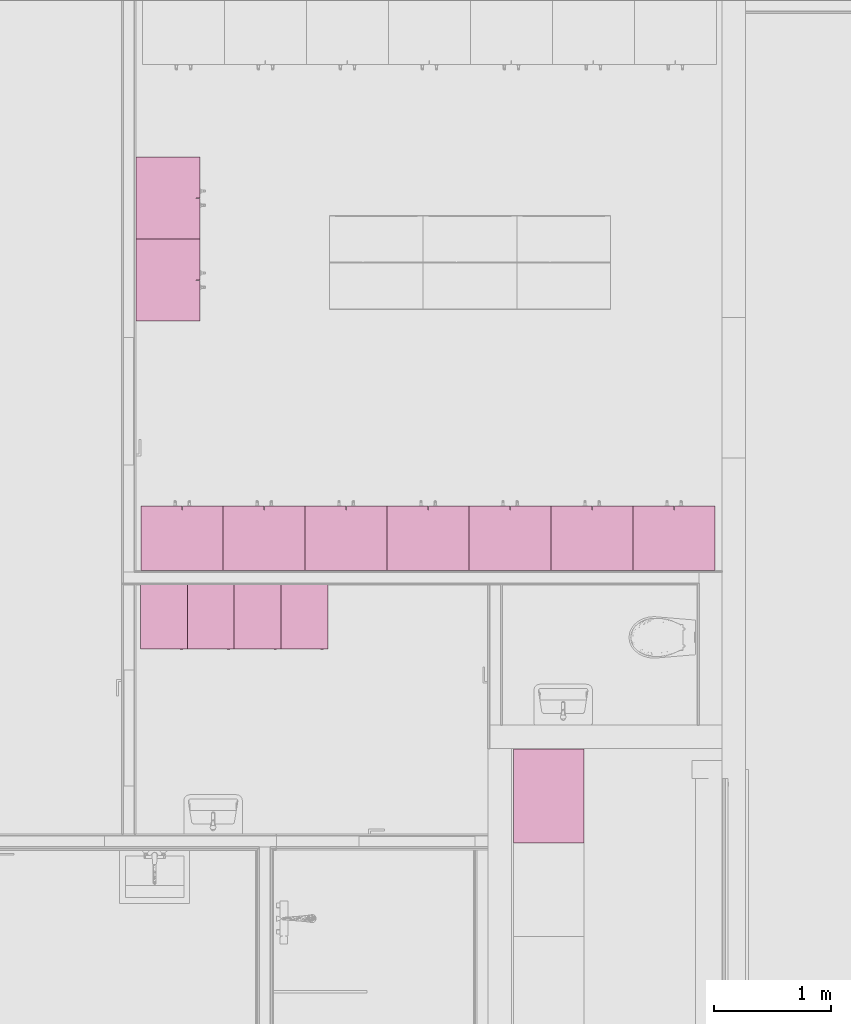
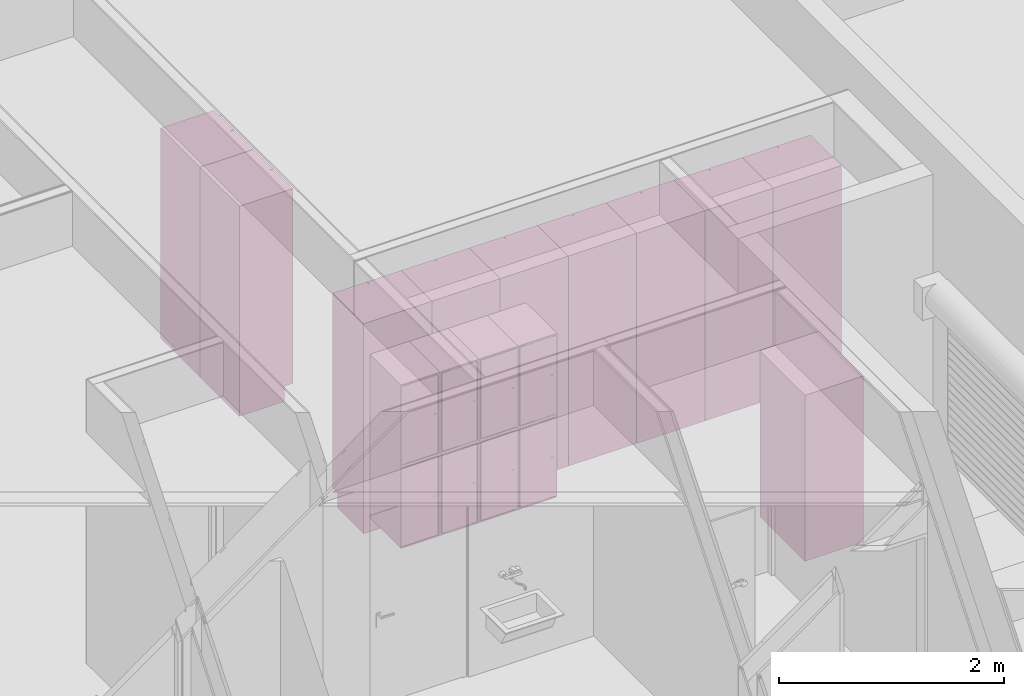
# One storey, part 33 of 67: 14 furniture elements.
"""IFC4 building model written with IfcOpenShell, lengths in millimetres."""

from ifc_helpers import new_model, entity, si_unit, converted_unit, direction, frame, origin, place, context, subcontext, project, spatial, indexed_curve, outline, extrude, polygons, source, transform, mapped, material, constituent, constituent_set, type_object, type_shapes, element, save


model = new_model("IFC4")

# Units and contexts
model_context = context("Model", 3, precision=0.01, world=origin(), true_north=direction((0.0, 1.0)))
body_context = subcontext(model_context, "Body", "Model", "MODEL_VIEW")
ifc_project = project(units=[si_unit("LENGTHUNIT", "METRE", prefix="MILLI"), si_unit("AREAUNIT", "SQUARE_METRE"), si_unit("VOLUMEUNIT", "CUBIC_METRE"), converted_unit("PLANEANGLEUNIT", "DEGREE", entity("IfcPlaneAngleMeasure", 0.017453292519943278), si_unit("PLANEANGLEUNIT", "RADIAN"), dimensions=[0, 0, 0, 0, 0, 0, 0])], contexts=[model_context])

# Site, building, storey, space
site_placement = place(None, origin())
site = spatial("IfcSite", under=ifc_project, at=site_placement, Name="Tomtens navn", CompositionType="ELEMENT")
building_placement = place(site_placement, origin())
building = spatial("IfcBuilding", under=site, at=building_placement, Name="Byggets navn", CompositionType="ELEMENT")
storey_placement = place(building_placement, origin())
storey = spatial("IfcBuildingStorey", under=building, at=storey_placement, Name="Level 01", CompositionType="ELEMENT", Elevation=2.1993652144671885e-25)
space_1_placement = place(storey_placement, origin())
space_1 = spatial("IfcSpace", under=storey, at=space_1_placement, Name="104", CompositionType="ELEMENT", PredefinedType="NOTDEFINED")

# Furniture
ifc_material_1 = material(Name="Paint - Grey", Category="Paint")
ifc_constituent_1 = constituent(ifc_material_1, Name="Paint - Grey", Category="Paint", fraction=0.9248749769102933)
ifc_material_2 = material(Name="Paint - White", Category="Paint")
ifc_constituent_2 = constituent(ifc_material_2, Name="Paint - White", Category="Paint", fraction=0.07512502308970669)
ifc_constituent_set_1 = constituent_set(constituents=[ifc_constituent_1, ifc_constituent_2])
ifc_constituent_3 = constituent(ifc_material_1, Name="Locker", Category="Paint", fraction=0.7554955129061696)
ifc_constituent_4 = constituent(ifc_material_2, Name="Locker", Category="Paint", fraction=0.24450448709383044)
ifc_constituent_set_2 = constituent_set(constituents=[ifc_constituent_3, ifc_constituent_4])
furniture_type_1 = type_object("IfcFurnitureType", Name="^ 275_Public_Locker02 x2 w Bench:300x300+200", AssemblyPlace="NOTDEFINED", PredefinedType="NOTDEFINED", material=ifc_constituent_set_2)
shared_shape_1 = source(origin(), body_context, "Body", "Tessellation", [
    polygons([(45.821319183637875, -150.0000000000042, 250.00000000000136), (45.821319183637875, -150.0000000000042, 2024.9999999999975), (45.821319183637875, -700.0000000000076, 2024.9999999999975), (45.821319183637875, -700.0000000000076, 249.99999999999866), (-354.178680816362, -150.0000000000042, 250.00000000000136), (-354.178680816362, -700.0000000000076, 249.99999999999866), (-354.178680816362, -700.0000000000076, 2024.9999999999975), (-354.178680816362, -150.0000000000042, 2024.9999999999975), (30.82131918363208, -150.0000000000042, 265.0000000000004), (30.82131918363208, -150.0000000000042, 1122.4999999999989), (-339.1786808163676, -150.0000000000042, 1122.4999999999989), (-339.1786808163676, -150.0000000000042, 265.0000000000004), (30.8213191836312, -150.0000000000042, 1152.4999999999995), (30.8213191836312, -150.0000000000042, 2009.9999999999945), (-339.17868081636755, -150.0000000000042, 2009.9999999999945), (-339.17868081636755, -150.0000000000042, 1152.4999999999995), (30.82131918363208, -584.9999999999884, 265.0000000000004), (-339.1786808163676, -584.9999999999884, 265.0000000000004), (-339.1786808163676, -584.9999999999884, 1122.4999999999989), (30.82131918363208, -584.9999999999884, 1122.4999999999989), (30.8213191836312, -584.9999999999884, 1152.4999999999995), (-339.17868081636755, -584.9999999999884, 1152.4999999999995), (-339.17868081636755, -584.9999999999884, 2009.9999999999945), (30.8213191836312, -584.9999999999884, 2009.9999999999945)], [[[1, 2, 3, 4]], [[5, 6, 7, 8]], [[4, 6, 5, 1]], [[3, 7, 6, 4]], [[2, 8, 7, 3]], [[1, 5, 8, 2], [9, 10, 11, 12], [13, 14, 15, 16]], [[17, 9, 12, 18]], [[18, 12, 11, 19]], [[19, 11, 10, 20]], [[20, 10, 9, 17]], [[21, 13, 16, 22]], [[22, 16, 15, 23]], [[23, 15, 14, 24]], [[24, 14, 13, 21]], [[17, 18, 19, 20]], [[21, 22, 23, 24]]], closed=True),
    polygons([(27.821319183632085, -150.00000000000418, 2006.9999999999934), (27.821319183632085, -150.00000000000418, 1155.4999999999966), (-336.1786808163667, -150.00000000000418, 1155.4999999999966), (-336.1786808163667, -150.00000000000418, 2006.9999999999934), (27.821319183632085, -165.00000000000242, 2006.9999999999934), (-336.1786808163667, -165.00000000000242, 2006.9999999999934), (-336.1786808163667, -165.00000000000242, 1155.4999999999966), (27.821319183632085, -165.00000000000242, 1155.4999999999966)], [[[1, 2, 3, 4]], [[5, 6, 7, 8]], [[4, 6, 5, 1]], [[3, 7, 6, 4]], [[2, 8, 7, 3]], [[1, 5, 8, 2]]], closed=True),
    polygons([(-336.17868081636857, -150.00000000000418, 1119.4999999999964), (-336.17868081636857, -165.00000000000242, 1119.4999999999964), (27.821319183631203, -165.00000000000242, 1119.4999999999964), (27.821319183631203, -150.00000000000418, 1119.4999999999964), (-336.17868081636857, -150.00000000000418, 268.0000000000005), (-336.17868081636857, -165.00000000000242, 268.0000000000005), (27.821319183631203, -150.00000000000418, 268.0000000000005), (27.821319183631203, -165.00000000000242, 268.0000000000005)], [[[1, 2, 3, 4]], [[5, 6, 2, 1]], [[7, 8, 6, 5]], [[4, 3, 8, 7]], [[3, 2, 6, 8]], [[4, 7, 5, 1]]], closed=True),
    polygons([(-317.05457618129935, -150.00000000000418, 693.7499999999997), (-316.6286490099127, -150.00000000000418, 690.5147619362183), (-315.3798937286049, -150.00000000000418, 687.4999999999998), (-313.39341094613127, -150.00000000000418, 684.9111652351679), (-310.80457618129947, -150.00000000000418, 682.9246824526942), (-307.78981424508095, -150.00000000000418, 681.6759271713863), (-304.55457618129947, -150.00000000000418, 681.2499999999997), (-301.31933811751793, -150.00000000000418, 681.6759271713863), (-298.30457618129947, -150.00000000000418, 682.9246824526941), (-295.7157414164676, -150.00000000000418, 684.9111652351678), (-293.72925863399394, -150.00000000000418, 687.4999999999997), (-292.480503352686, -150.00000000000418, 690.5147619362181), (-292.05457618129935, -150.00000000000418, 693.7499999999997), (-292.480503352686, -150.00000000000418, 696.9852380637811), (-293.7292586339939, -150.00000000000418, 699.9999999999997), (-295.7157414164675, -150.00000000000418, 702.5888347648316), (-298.30457618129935, -150.00000000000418, 704.5753175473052), (-301.3193381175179, -150.00000000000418, 705.824072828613), (-304.55457618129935, -150.00000000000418, 706.2499999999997), (-307.7898142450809, -150.00000000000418, 705.824072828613), (-310.80457618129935, -150.00000000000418, 704.5753175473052), (-313.3934109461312, -150.00000000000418, 702.5888347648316), (-315.3798937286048, -150.00000000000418, 699.9999999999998), (-316.6286490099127, -150.00000000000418, 696.9852380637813), (-317.05457618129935, -147.00000000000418, 693.7499999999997), (-316.6286490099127, -147.00000000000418, 696.9852380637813), (-315.3798937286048, -147.00000000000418, 699.9999999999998), (-313.3934109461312, -147.00000000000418, 702.5888347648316), (-310.80457618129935, -147.00000000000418, 704.5753175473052), (-307.7898142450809, -147.00000000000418, 705.824072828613), (-304.55457618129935, -147.00000000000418, 706.2499999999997), (-301.3193381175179, -147.00000000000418, 705.824072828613), (-298.30457618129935, -147.00000000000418, 704.5753175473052), (-295.7157414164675, -147.00000000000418, 702.5888347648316), (-293.7292586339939, -147.00000000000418, 699.9999999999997), (-292.480503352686, -147.00000000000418, 696.9852380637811), (-292.05457618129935, -147.00000000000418, 693.7499999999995), (-292.480503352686, -147.00000000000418, 690.5147619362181), (-293.72925863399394, -147.00000000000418, 687.4999999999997), (-295.7157414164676, -147.00000000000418, 684.9111652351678), (-298.30457618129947, -147.00000000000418, 682.9246824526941), (-301.31933811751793, -147.00000000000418, 681.6759271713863), (-304.55457618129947, -147.00000000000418, 681.2499999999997), (-307.78981424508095, -147.00000000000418, 681.6759271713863), (-310.80457618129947, -147.00000000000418, 682.9246824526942), (-313.39341094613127, -147.00000000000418, 684.9111652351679), (-315.3798937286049, -147.00000000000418, 687.4999999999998), (-316.6286490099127, -147.00000000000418, 690.5147619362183)], [[[18, 19, 20, 21, 22, 23, 24, 1, 2, 3, 4, 5, 6, 7, 8, 9, 10, 11, 12, 13, 14, 15, 16, 17]], [[40, 41, 42, 43, 44, 45, 46, 47, 48, 25, 26, 27, 28, 29, 30, 31, 32, 33, 34, 35, 36, 37, 38, 39]], [[1, 25, 48, 2]], [[2, 48, 47, 3]], [[5, 4, 46, 45]], [[46, 4, 3, 47]], [[6, 5, 45, 44]], [[6, 44, 43, 7]], [[7, 43, 42, 8]], [[8, 42, 41, 9]], [[11, 10, 40, 39]], [[40, 10, 9, 41]], [[12, 11, 39, 38]], [[12, 38, 37, 13]], [[13, 37, 36, 14]], [[14, 36, 35, 15]], [[17, 16, 34, 33]], [[34, 16, 15, 35]], [[18, 17, 33, 32]], [[18, 32, 31, 19]], [[19, 31, 30, 20]], [[20, 30, 29, 21]], [[23, 22, 28, 27]], [[28, 22, 21, 29]], [[24, 23, 27, 26]], [[24, 26, 25, 1]]], closed=True),
    polygons([(-317.05457618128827, -147.00000000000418, 1581.2499999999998), (-316.6286490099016, -147.00000000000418, 1584.4852380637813), (-315.37989372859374, -147.00000000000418, 1587.4999999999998), (-313.3934109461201, -147.00000000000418, 1590.0888347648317), (-310.80457618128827, -147.00000000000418, 1592.0753175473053), (-307.7898142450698, -147.00000000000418, 1593.3240728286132), (-304.55457618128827, -147.00000000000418, 1593.75), (-301.31933811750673, -147.00000000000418, 1593.3240728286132), (-298.30457618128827, -147.00000000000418, 1592.0753175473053), (-295.7157414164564, -147.00000000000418, 1590.0888347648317), (-293.7292586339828, -147.00000000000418, 1587.4999999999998), (-292.48050335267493, -147.00000000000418, 1584.4852380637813), (-292.05457618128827, -147.00000000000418, 1581.2499999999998), (-292.48050335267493, -147.00000000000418, 1578.0147619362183), (-293.72925863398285, -147.00000000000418, 1574.9999999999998), (-295.71574141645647, -147.00000000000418, 1572.4111652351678), (-298.3045761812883, -147.00000000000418, 1570.4246824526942), (-301.31933811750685, -147.00000000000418, 1569.1759271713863), (-304.5545761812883, -147.00000000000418, 1568.7499999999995), (-307.78981424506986, -147.00000000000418, 1569.1759271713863), (-310.8045761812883, -147.00000000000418, 1570.4246824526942), (-313.3934109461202, -147.00000000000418, 1572.4111652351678), (-315.3798937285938, -147.00000000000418, 1574.9999999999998), (-316.6286490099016, -147.00000000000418, 1578.0147619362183), (-317.05457618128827, -150.00000000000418, 1581.2499999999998), (-316.6286490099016, -150.00000000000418, 1578.0147619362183), (-315.3798937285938, -150.00000000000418, 1574.9999999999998), (-313.3934109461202, -150.00000000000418, 1572.4111652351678), (-310.8045761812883, -150.00000000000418, 1570.4246824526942), (-307.78981424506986, -150.00000000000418, 1569.1759271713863), (-304.5545761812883, -150.00000000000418, 1568.7499999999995), (-301.31933811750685, -150.00000000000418, 1569.1759271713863), (-298.3045761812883, -150.00000000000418, 1570.4246824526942), (-295.71574141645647, -150.00000000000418, 1572.4111652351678), (-293.72925863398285, -150.00000000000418, 1574.9999999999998), (-292.48050335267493, -150.00000000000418, 1578.0147619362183), (-292.05457618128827, -150.00000000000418, 1581.2499999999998), (-292.48050335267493, -150.00000000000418, 1584.4852380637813), (-293.7292586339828, -150.00000000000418, 1587.4999999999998), (-295.7157414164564, -150.00000000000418, 1590.0888347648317), (-298.30457618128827, -150.00000000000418, 1592.0753175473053), (-301.31933811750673, -150.00000000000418, 1593.3240728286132), (-304.55457618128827, -150.00000000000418, 1593.75), (-307.7898142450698, -150.00000000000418, 1593.3240728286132), (-310.80457618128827, -150.00000000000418, 1592.0753175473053), (-313.3934109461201, -150.00000000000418, 1590.0888347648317), (-315.37989372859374, -150.00000000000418, 1587.4999999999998), (-316.6286490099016, -150.00000000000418, 1584.4852380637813)], [[[18, 19, 20, 21, 22, 23, 24, 1, 2, 3, 4, 5, 6, 7, 8, 9, 10, 11, 12, 13, 14, 15, 16, 17]], [[42, 43, 44, 45, 46, 47, 48, 25, 26, 27, 28, 29, 30, 31, 32, 33, 34, 35, 36, 37, 38, 39, 40, 41]], [[25, 1, 24, 26]], [[26, 24, 23, 27]], [[29, 28, 22, 21]], [[22, 28, 27, 23]], [[30, 29, 21, 20]], [[30, 20, 19, 31]], [[31, 19, 18, 32]], [[32, 18, 17, 33]], [[35, 34, 16, 15]], [[16, 34, 33, 17]], [[36, 35, 15, 14]], [[36, 14, 13, 37]], [[37, 13, 12, 38]], [[38, 12, 11, 39]], [[41, 40, 10, 9]], [[10, 40, 39, 11]], [[42, 41, 9, 8]], [[42, 8, 7, 43]], [[43, 7, 6, 44]], [[44, 6, 5, 45]], [[47, 46, 4, 3]], [[4, 46, 45, 5]], [[48, 47, 3, 2]], [[48, 2, 1, 25]]], closed=True),
])
type_shapes(furniture_type_1, [shared_shape_1])
furniture_1_placement = place(space_1_placement, frame((63701.67484728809, 17170.46645692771, 0.0), z_axis=(0.0, 0.0, 1.0), x_axis=(-1.0, 0.0, 0.0)))
element("IfcFurniture", 1, at=furniture_1_placement, inside=space_1, type_object=furniture_type_1, material=ifc_constituent_set_1, Name="^ 275_Public_Locker02 x2 w Bench:300x300+200", PredefinedType="NOTDEFINED", context=body_context, shape_type="MappedRepresentation", body=[
    mapped(shared_shape_1, transform((0.0, 0.0, 0.0), scale=1.0)),
])
ifc_constituent_5 = constituent(ifc_material_1, Name="Paint - Grey", Category="Paint", fraction=0.9248749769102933)
ifc_constituent_6 = constituent(ifc_material_2, Name="Paint - White", Category="Paint", fraction=0.07512502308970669)
ifc_constituent_set_3 = constituent_set(constituents=[ifc_constituent_5, ifc_constituent_6])
furniture_2_placement = place(space_1_placement, frame((64101.674847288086, 17170.46645692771, 0.0), z_axis=(0.0, 0.0, 1.0), x_axis=(-1.0, 0.0, 0.0)))
element("IfcFurniture", 2, at=furniture_2_placement, inside=space_1, type_object=furniture_type_1, material=ifc_constituent_set_3, Name="^ 275_Public_Locker02 x2 w Bench:300x300+200", PredefinedType="NOTDEFINED", context=body_context, shape_type="MappedRepresentation", body=[
    mapped(shared_shape_1, transform((0.0, 0.0, 0.0), scale=1.0)),
])
ifc_constituent_7 = constituent(ifc_material_1, Name="Paint - Grey", Category="Paint", fraction=0.9248749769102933)
ifc_constituent_8 = constituent(ifc_material_2, Name="Paint - White", Category="Paint", fraction=0.07512502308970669)
ifc_constituent_set_4 = constituent_set(constituents=[ifc_constituent_7, ifc_constituent_8])
furniture_3_placement = place(space_1_placement, frame((64501.67484728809, 17170.46645692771, 0.0), z_axis=(0.0, 0.0, 1.0), x_axis=(-1.0, 0.0, 0.0)))
element("IfcFurniture", 3, at=furniture_3_placement, inside=space_1, type_object=furniture_type_1, material=ifc_constituent_set_4, Name="^ 275_Public_Locker02 x2 w Bench:300x300+200", PredefinedType="NOTDEFINED", context=body_context, shape_type="MappedRepresentation", body=[
    mapped(shared_shape_1, transform((0.0, 0.0, 0.0), scale=1.0)),
])
ifc_constituent_9 = constituent(ifc_material_1, Name="Paint - Grey", Category="Paint", fraction=0.9248749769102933)
ifc_constituent_10 = constituent(ifc_material_2, Name="Paint - White", Category="Paint", fraction=0.07512502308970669)
ifc_constituent_set_5 = constituent_set(constituents=[ifc_constituent_9, ifc_constituent_10])
furniture_4_placement = place(space_1_placement, frame((64901.674847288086, 17170.46645692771, 0.0), z_axis=(0.0, 0.0, 1.0), x_axis=(-1.0, 0.0, 0.0)))
element("IfcFurniture", 4, at=furniture_4_placement, inside=space_1, type_object=furniture_type_1, material=ifc_constituent_set_5, Name="^ 275_Public_Locker02 x2 w Bench:300x300+200", PredefinedType="NOTDEFINED", context=body_context, shape_type="MappedRepresentation", body=[
    mapped(shared_shape_1, transform((0.0, 0.0, 0.0), scale=1.0)),
])

# Space
space_2_placement = place(storey_placement, origin())
space_2 = spatial("IfcSpace", under=storey, at=space_2_placement, Name="102", CompositionType="ELEMENT", PredefinedType="NOTDEFINED")

# Furniture
ifc_material_3 = material(Name="Skåpstomme, vit", Category="Unassigned")
ifc_constituent_11 = constituent(ifc_material_3, Name="Skåpstomme, vit", Category="Unassigned", fraction=0.9406416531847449)
ifc_material_4 = material(Name="Skåpdörr, vit", Category="Unassigned")
ifc_constituent_12 = constituent(ifc_material_4, Name="Skåpdörr, vit", Category="Unassigned", fraction=0.059358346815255)
ifc_constituent_set_6 = constituent_set(constituents=[ifc_constituent_11, ifc_constituent_12])
ifc_constituent_13 = constituent(ifc_material_3, Name="Sockel", Category="Unassigned", fraction=0.484706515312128)
ifc_constituent_14 = constituent(ifc_material_3, Name="Stomme", Category="Unassigned", fraction=0.484706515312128)
ifc_constituent_15 = constituent(ifc_material_4, Name="Dörr", Category="Unassigned", fraction=0.030586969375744)
ifc_constituent_set_7 = constituent_set(constituents=[ifc_constituent_13, ifc_constituent_14, ifc_constituent_15])
furniture_type_2 = type_object("IfcFurnitureType", Name="Wardrobe Double:700", AssemblyPlace="NOTDEFINED", PredefinedType="NOTDEFINED", material=ifc_constituent_set_7)
shared_shape_2 = source(origin(), body_context, "Body", "SweptSolid", [
    extrude(outline(indexed_curve([(-231.9999999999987, -349.99999999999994), (231.99999999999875, -349.99999999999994), (231.99999999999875, 349.99999999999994), (-231.9999999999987, 349.99999999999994), (-231.9999999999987, -349.99999999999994)], self_intersect=False)), frame((-254.58506095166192, -519.8168112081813, 0.0), z_axis=(0.0, 0.0, 1.0), x_axis=(0.0, 1.0, 0.0)), (0.0, 0.0, 1.0), 165.9999999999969),
    extrude(outline(indexed_curve([(-257.4999999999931, -349.99999999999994), (257.4999999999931, -349.99999999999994), (257.4999999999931, 349.99999999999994), (-257.4999999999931, 349.99999999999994), (-257.4999999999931, -349.99999999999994)], self_intersect=False)), frame((-254.58506095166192, -494.3168112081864, 166.0), z_axis=(0.0, 0.0, 1.0), x_axis=(0.0, 1.0, 0.0)), (0.0, 0.0, 1.0), 2112.0),
    extrude(outline(indexed_curve([(-173.9999999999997, -17.50000000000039), (173.99999999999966, -17.500000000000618), (173.9999999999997, 17.50000000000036), (-173.9999999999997, 17.500000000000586), (-173.9999999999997, -17.50000000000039)], self_intersect=False)), frame((-430.58506095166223, -219.31681120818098, 166.0)), (0.0, 0.0, 1.0), 2112.0),
    extrude(outline(indexed_curve([(-173.99999999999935, -17.50000000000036), (173.99999999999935, -17.500000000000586), (173.99999999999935, 17.50000000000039), (-173.99999999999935, 17.500000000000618), (-173.99999999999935, -17.50000000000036)], self_intersect=False)), frame((-78.58506095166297, -219.3168112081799, 166.0)), (0.0, 0.0, 1.0), 2112.000000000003),
])
type_shapes(furniture_type_2, [shared_shape_2])
furniture_5_placement = place(space_2_placement, frame((67766.43858905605, 18745.283268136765, 0.0)))
element("IfcFurniture", 5, at=furniture_5_placement, inside=space_2, type_object=furniture_type_2, material=ifc_constituent_set_6, Name="Wardrobe Double:700", PredefinedType="NOTDEFINED", context=body_context, shape_type="MappedRepresentation", body=[
    mapped(shared_shape_2, transform((0.0, 0.0, 0.0), scale=1.0)),
])
ifc_constituent_16 = constituent(ifc_material_3, Name="Skåpstomme, vit", Category="Unassigned", fraction=0.9406416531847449)
ifc_constituent_17 = constituent(ifc_material_4, Name="Skåpdörr, vit", Category="Unassigned", fraction=0.059358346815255)
ifc_constituent_set_8 = constituent_set(constituents=[ifc_constituent_16, ifc_constituent_17])
furniture_6_placement = place(space_2_placement, frame((67066.43858905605, 18745.28326813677, 0.0)))
element("IfcFurniture", 6, at=furniture_6_placement, inside=space_2, type_object=furniture_type_2, material=ifc_constituent_set_8, Name="Wardrobe Double:700", PredefinedType="NOTDEFINED", context=body_context, shape_type="MappedRepresentation", body=[
    mapped(shared_shape_2, transform((0.0, 0.0, 0.0), scale=1.0)),
])
ifc_constituent_18 = constituent(ifc_material_3, Name="Skåpstomme, vit", Category="Unassigned", fraction=0.9406416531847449)
ifc_constituent_19 = constituent(ifc_material_4, Name="Skåpdörr, vit", Category="Unassigned", fraction=0.059358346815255)
ifc_constituent_set_9 = constituent_set(constituents=[ifc_constituent_18, ifc_constituent_19])
furniture_7_placement = place(space_2_placement, frame((66366.43858905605, 18745.28326813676, 0.0)))
element("IfcFurniture", 7, at=furniture_7_placement, inside=space_2, type_object=furniture_type_2, material=ifc_constituent_set_9, Name="Wardrobe Double:700", PredefinedType="NOTDEFINED", context=body_context, shape_type="MappedRepresentation", body=[
    mapped(shared_shape_2, transform((0.0, 0.0, 0.0), scale=1.0)),
])
ifc_constituent_20 = constituent(ifc_material_3, Name="Skåpstomme, vit", Category="Unassigned", fraction=0.9406416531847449)
ifc_constituent_21 = constituent(ifc_material_4, Name="Skåpdörr, vit", Category="Unassigned", fraction=0.059358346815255)
ifc_constituent_set_10 = constituent_set(constituents=[ifc_constituent_20, ifc_constituent_21])
furniture_8_placement = place(space_2_placement, frame((65666.43858905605, 18745.283268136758, 0.0)))
element("IfcFurniture", 8, at=furniture_8_placement, inside=space_2, type_object=furniture_type_2, material=ifc_constituent_set_10, Name="Wardrobe Double:700", PredefinedType="NOTDEFINED", context=body_context, shape_type="MappedRepresentation", body=[
    mapped(shared_shape_2, transform((0.0, 0.0, 0.0), scale=1.0)),
])
ifc_constituent_22 = constituent(ifc_material_3, Name="Skåpstomme, vit", Category="Unassigned", fraction=0.9406416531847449)
ifc_constituent_23 = constituent(ifc_material_4, Name="Skåpdörr, vit", Category="Unassigned", fraction=0.059358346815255)
ifc_constituent_set_11 = constituent_set(constituents=[ifc_constituent_22, ifc_constituent_23])
furniture_9_placement = place(space_2_placement, frame((64966.43858905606, 18745.28326813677, 0.0)))
element("IfcFurniture", 9, at=furniture_9_placement, inside=space_2, type_object=furniture_type_2, material=ifc_constituent_set_11, Name="Wardrobe Double:700", PredefinedType="NOTDEFINED", context=body_context, shape_type="MappedRepresentation", body=[
    mapped(shared_shape_2, transform((0.0, 0.0, 0.0), scale=1.0)),
])
ifc_constituent_24 = constituent(ifc_material_3, Name="Skåpstomme, vit", Category="Unassigned", fraction=0.9406416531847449)
ifc_constituent_25 = constituent(ifc_material_4, Name="Skåpdörr, vit", Category="Unassigned", fraction=0.059358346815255)
ifc_constituent_set_12 = constituent_set(constituents=[ifc_constituent_24, ifc_constituent_25])
furniture_10_placement = place(space_2_placement, frame((64367.670339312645, 20916.881395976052, 0.0), z_axis=(0.0, 0.0, 1.0), x_axis=(0.0, -1.0, 0.0)))
element("IfcFurniture", 10, at=furniture_10_placement, inside=space_2, type_object=furniture_type_2, material=ifc_constituent_set_12, Name="Wardrobe Double:700", PredefinedType="NOTDEFINED", context=body_context, shape_type="MappedRepresentation", body=[
    mapped(shared_shape_2, transform((0.0, 0.0, 0.0), scale=1.0)),
])
ifc_constituent_26 = constituent(ifc_material_3, Name="Skåpstomme, vit", Category="Unassigned", fraction=0.9406416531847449)
ifc_constituent_27 = constituent(ifc_material_4, Name="Skåpdörr, vit", Category="Unassigned", fraction=0.059358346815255)
ifc_constituent_set_13 = constituent_set(constituents=[ifc_constituent_26, ifc_constituent_27])
furniture_11_placement = place(space_2_placement, frame((64266.438589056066, 18745.28326813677, 0.0)))
element("IfcFurniture", 11, at=furniture_11_placement, inside=space_2, type_object=furniture_type_2, material=ifc_constituent_set_13, Name="Wardrobe Double:700", PredefinedType="NOTDEFINED", context=body_context, shape_type="MappedRepresentation", body=[
    mapped(shared_shape_2, transform((0.0, 0.0, 0.0), scale=1.0)),
])
ifc_constituent_28 = constituent(ifc_material_3, Name="Skåpstomme, vit", Category="Unassigned", fraction=0.9406416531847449)
ifc_constituent_29 = constituent(ifc_material_4, Name="Skåpdörr, vit", Category="Unassigned", fraction=0.059358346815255)
ifc_constituent_set_14 = constituent_set(constituents=[ifc_constituent_28, ifc_constituent_29])
furniture_12_placement = place(space_2_placement, frame((68466.43858905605, 18745.283268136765, 0.0)))
element("IfcFurniture", 12, at=furniture_12_placement, inside=space_2, type_object=furniture_type_2, material=ifc_constituent_set_14, Name="Wardrobe Double:700", PredefinedType="NOTDEFINED", context=body_context, shape_type="MappedRepresentation", body=[
    mapped(shared_shape_2, transform((0.0, 0.0, 0.0), scale=1.0)),
])
ifc_constituent_30 = constituent(ifc_material_3, Name="Skåpstomme, vit", Category="Unassigned", fraction=0.9406416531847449)
ifc_constituent_31 = constituent(ifc_material_4, Name="Skåpdörr, vit", Category="Unassigned", fraction=0.059358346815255)
ifc_constituent_set_15 = constituent_set(constituents=[ifc_constituent_30, ifc_constituent_31])
furniture_13_placement = place(space_2_placement, frame((64367.67033931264, 20216.88139597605, 0.0), z_axis=(0.0, 0.0, 1.0), x_axis=(0.0, -1.0, 0.0)))
element("IfcFurniture", 13, at=furniture_13_placement, inside=space_2, type_object=furniture_type_2, material=ifc_constituent_set_15, Name="Wardrobe Double:700", PredefinedType="NOTDEFINED", context=body_context, shape_type="MappedRepresentation", body=[
    mapped(shared_shape_2, transform((0.0, 0.0, 0.0), scale=1.0)),
])

# Space
space_3_placement = place(storey_placement, origin())
space_3 = spatial("IfcSpace", under=storey, at=space_3_placement, Name="115", CompositionType="ELEMENT", PredefinedType="NOTDEFINED")

# Furniture
ifc_material_5 = material(Name="<Unnamed>")
furniture_type_3 = type_object("IfcFurnitureType", Name="Storage_Shelf_01:Oppbevaring B800xD600xH1800 2", AssemblyPlace="NOTDEFINED", PredefinedType="NOTDEFINED", material=ifc_material_5)
shared_shape_3 = source(origin(), body_context, "Body", "Tessellation", [
    polygons([(604.0000000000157, 300.0000000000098, 1799.9999999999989), (-195.9999999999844, 300.0000000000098, 1799.9999999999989), (-195.9999999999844, -299.9999999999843, 1799.9999999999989), (604.0000000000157, -299.9999999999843, 1799.9999999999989), (-195.9999999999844, 300.0000000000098, -3.2840119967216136e-11), (-179.55246232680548, 300.0000000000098, -3.2840119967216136e-11), (-179.55246232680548, -284.0000000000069, -3.1486536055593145e-11), (588.0000000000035, -284.0000000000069, -3.150850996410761e-11), (588.0000000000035, 300.0000000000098, -3.2840119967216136e-11), (604.0000000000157, 300.0000000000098, -3.2840119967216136e-11), (604.0000000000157, -299.9999999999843, -3.2840119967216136e-11), (-195.9999999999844, -299.9999999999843, -3.2840119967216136e-11), (588.0000000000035, 300.00000000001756, 1784.0250199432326), (-179.55246232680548, 300.0000000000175, 1784.0250199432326), (-179.55246232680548, -283.99999999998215, 1784.0250199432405), (588.0000000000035, -283.99999999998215, 1784.0250199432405)], [[[1, 2, 3, 4]], [[5, 6, 7, 8, 9, 10, 11, 12]], [[4, 11, 10, 1]], [[3, 12, 11, 4]], [[2, 5, 12, 3]], [[1, 10, 9, 13, 14, 6, 5, 2]], [[8, 7, 15, 16]], [[16, 13, 9, 8]], [[15, 14, 13, 16]], [[7, 6, 14, 15]]], closed=True),
    polygons([(588.0000000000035, -284.00000000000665, 30.00000000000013), (588.0000000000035, 300.00000000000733, 29.99999999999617), (-179.55246232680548, 300.00000000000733, 29.999999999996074), (-179.55246232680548, -284.00000000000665, 30.000000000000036), (588.0000000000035, -284.0000000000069, -3.0831479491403e-11), (-179.55246232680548, -284.0000000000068, -3.092516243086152e-11), (-179.55246232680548, 300.00000000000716, -3.488747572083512e-11), (588.0000000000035, 300.00000000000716, -3.4792382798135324e-11)], [[[1, 2, 3, 4]], [[5, 6, 7, 8]], [[4, 6, 5, 1]], [[3, 7, 6, 4]], [[2, 8, 7, 3]], [[1, 5, 8, 2]]], closed=True),
    polygons([(588.0000000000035, 284.48713487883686, 29.999999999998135), (-179.55246232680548, 284.48713487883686, 29.999999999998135), (-179.55246232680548, 268.4871348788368, 29.999999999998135), (588.0000000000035, 268.4871348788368, 29.999999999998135), (588.0000000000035, 284.48713487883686, -1.868428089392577e-12), (588.0000000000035, 268.4871348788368, -1.868428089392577e-12), (-179.55246232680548, 268.4871348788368, -1.868428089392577e-12), (-179.55246232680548, 284.48713487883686, -1.868428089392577e-12)], [[[1, 2, 3, 4]], [[5, 6, 7, 8]], [[4, 6, 5, 1]], [[3, 7, 6, 4]], [[2, 8, 7, 3]], [[1, 5, 8, 2]]], closed=True),
    polygons([(588.0000000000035, 300.00000000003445, 584.0000000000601), (-179.55246232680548, 300.00000000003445, 584.0000000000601), (-179.55246232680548, 300.0000000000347, 599.9999999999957), (588.0000000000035, 300.0000000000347, 599.9999999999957), (588.0000000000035, -283.99999999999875, 584.0000000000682), (588.0000000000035, -283.9999999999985, 600.0000000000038), (-179.55246232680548, -283.9999999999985, 600.0000000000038), (-179.55246232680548, -283.99999999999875, 584.0000000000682)], [[[1, 2, 3, 4]], [[5, 6, 7, 8]], [[4, 6, 5, 1]], [[3, 7, 6, 4]], [[2, 8, 7, 3]], [[1, 5, 8, 2]]], closed=True),
    polygons([(588.0000000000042, 300.00000000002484, 1184.0000000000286), (-179.55246232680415, 300.00000000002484, 1184.0000000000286), (-179.55246232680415, 300.00000000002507, 1200.000000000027), (588.0000000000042, 300.00000000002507, 1200.000000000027), (588.0000000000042, -283.9999999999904, 1184.0000000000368), (588.0000000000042, -283.99999999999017, 1200.0000000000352), (-179.55246232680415, -283.99999999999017, 1200.0000000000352), (-179.55246232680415, -283.9999999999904, 1184.0000000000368)], [[[1, 2, 3, 4]], [[5, 6, 7, 8]], [[4, 6, 5, 1]], [[3, 7, 6, 4]], [[2, 8, 7, 3]], [[1, 5, 8, 2]]], closed=True),
])
type_shapes(furniture_type_3, [shared_shape_3])
furniture_14_placement = place(space_3_placement, frame((67142.85352810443, 16269.966456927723, 0.0), z_axis=(0.0, 0.0, 1.0), x_axis=(0.0, -1.0, 0.0)))
element("IfcFurniture", 14, at=furniture_14_placement, inside=space_3, type_object=furniture_type_3, material=ifc_material_5, Name="Storage_Shelf_01:Oppbevaring B800xD600xH1800 2", PredefinedType="NOTDEFINED", context=body_context, shape_type="MappedRepresentation", body=[
    mapped(shared_shape_3, transform((0.0, 0.0, 0.0), scale=1.0)),
])

save(model, "model.ifc")
